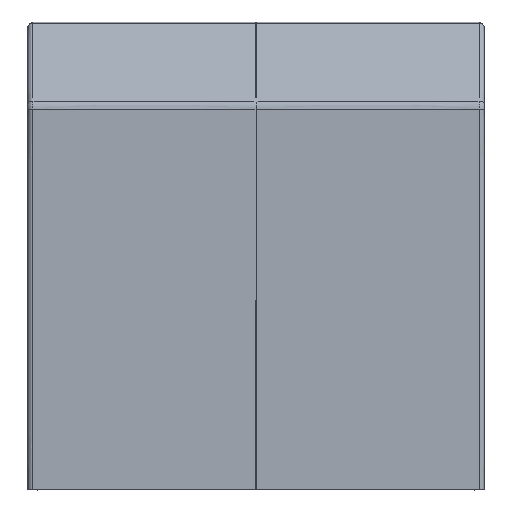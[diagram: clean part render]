
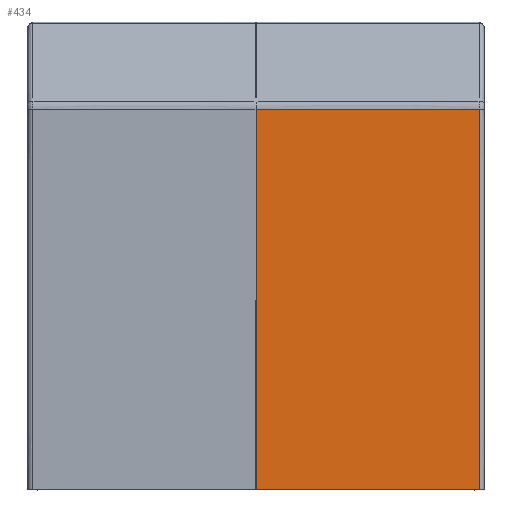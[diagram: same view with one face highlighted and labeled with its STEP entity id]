
A CAD part, front view. The second image highlights one B-rep face of the part: STEP entity #434.
In plain terms, the highlighted planar face has unit normal (0, -1, 0).
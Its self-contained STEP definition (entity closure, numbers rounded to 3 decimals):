
#127=(
BOUNDED_CURVE()
B_SPLINE_CURVE(3,(#3610,#3611,#3612,#3613),.UNSPECIFIED.,.F.,.F.)
B_SPLINE_CURVE_WITH_KNOTS((4,4),(-56.423,102.117),.UNSPECIFIED.)
CURVE()
GEOMETRIC_REPRESENTATION_ITEM()
RATIONAL_B_SPLINE_CURVE((1.,1.,1.,1.))
REPRESENTATION_ITEM($)
);
#128=(
BOUNDED_CURVE()
B_SPLINE_CURVE(3,(#3614,#3615,#3616,#3617),.UNSPECIFIED.,.F.,.F.)
B_SPLINE_CURVE_WITH_KNOTS((4,4),(754.621,847.621),.UNSPECIFIED.)
CURVE()
GEOMETRIC_REPRESENTATION_ITEM()
RATIONAL_B_SPLINE_CURVE((1.,1.,1.,1.))
REPRESENTATION_ITEM($)
);
#129=(
BOUNDED_CURVE()
B_SPLINE_CURVE(3,(#3618,#3619,#3620,#3621),.UNSPECIFIED.,.F.,.F.)
B_SPLINE_CURVE_WITH_KNOTS((4,4),(596.08,754.621),.UNSPECIFIED.)
CURVE()
GEOMETRIC_REPRESENTATION_ITEM()
RATIONAL_B_SPLINE_CURVE((1.,1.,1.,1.))
REPRESENTATION_ITEM($)
);
#130=(
BOUNDED_CURVE()
B_SPLINE_CURVE(3,(#3622,#3623,#3624,#3625),.UNSPECIFIED.,.F.,.F.)
B_SPLINE_CURVE_WITH_KNOTS((4,4),(503.08,596.08),.UNSPECIFIED.)
CURVE()
GEOMETRIC_REPRESENTATION_ITEM()
RATIONAL_B_SPLINE_CURVE((1.,1.,1.,1.))
REPRESENTATION_ITEM($)
);
#434=ADVANCED_FACE($,(#598),#2366,.T.);
#598=FACE_OUTER_BOUND($,#762,.T.);
#762=EDGE_LOOP($,(#1114,#1115,#1116,#1117));
#1114=ORIENTED_EDGE($,*,*,#1798,.F.);
#1115=ORIENTED_EDGE($,*,*,#1801,.T.);
#1116=ORIENTED_EDGE($,*,*,#1800,.T.);
#1117=ORIENTED_EDGE($,*,*,#1799,.T.);
#1798=EDGE_CURVE($,#2156,#2159,#127,.T.);
#1799=EDGE_CURVE($,#2157,#2159,#128,.T.);
#1800=EDGE_CURVE($,#2158,#2157,#129,.T.);
#1801=EDGE_CURVE($,#2156,#2158,#130,.T.);
#2156=VERTEX_POINT($,#4333);
#2157=VERTEX_POINT($,#4334);
#2158=VERTEX_POINT($,#4335);
#2159=VERTEX_POINT($,#4336);
#2366=PLANE($,#2680);
#2680=AXIS2_PLACEMENT_3D($,#3985,#2739,$);
#2739=DIRECTION($,(0.,-1.,0.));
#3610=CARTESIAN_POINT($,(0.,-61.504,-99.5));
#3611=CARTESIAN_POINT($,(0.,-61.504,-46.653));
#3612=CARTESIAN_POINT($,(0.,-61.504,6.193));
#3613=CARTESIAN_POINT($,(0.,-61.504,59.04));
#3614=CARTESIAN_POINT($,(93.,-61.504,59.04));
#3615=CARTESIAN_POINT($,(62.,-61.504,59.04));
#3616=CARTESIAN_POINT($,(31.,-61.504,59.04));
#3617=CARTESIAN_POINT($,(0.,-61.504,59.04));
#3618=CARTESIAN_POINT($,(93.,-61.504,-99.5));
#3619=CARTESIAN_POINT($,(93.,-61.504,-46.653));
#3620=CARTESIAN_POINT($,(93.,-61.504,6.193));
#3621=CARTESIAN_POINT($,(93.,-61.504,59.04));
#3622=CARTESIAN_POINT($,(0.,-61.504,-99.5));
#3623=CARTESIAN_POINT($,(31.,-61.504,-99.5));
#3624=CARTESIAN_POINT($,(62.,-61.504,-99.5));
#3625=CARTESIAN_POINT($,(93.,-61.504,-99.5));
#3985=CARTESIAN_POINT($,(0.,-61.504,-99.5));
#4333=CARTESIAN_POINT($,(0.,-61.504,-99.5));
#4334=CARTESIAN_POINT($,(93.,-61.504,59.04));
#4335=CARTESIAN_POINT($,(93.,-61.504,-99.5));
#4336=CARTESIAN_POINT($,(0.,-61.504,59.04));
